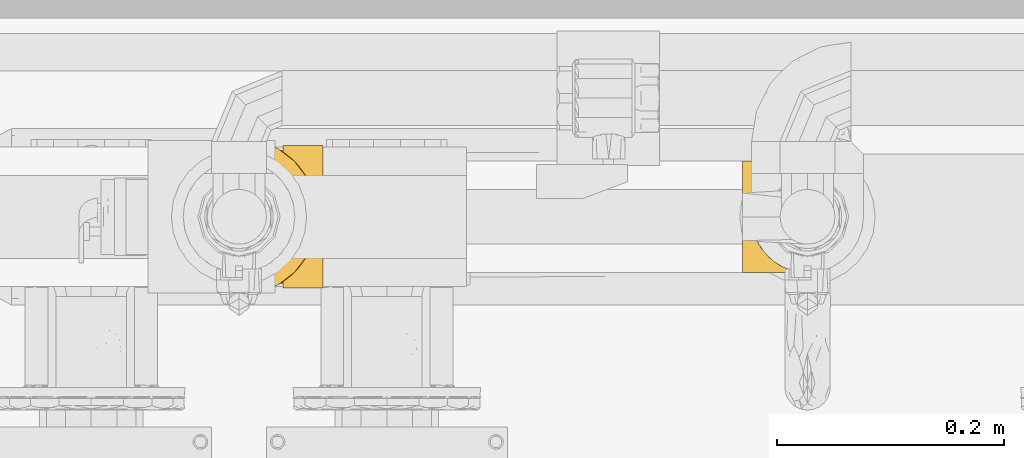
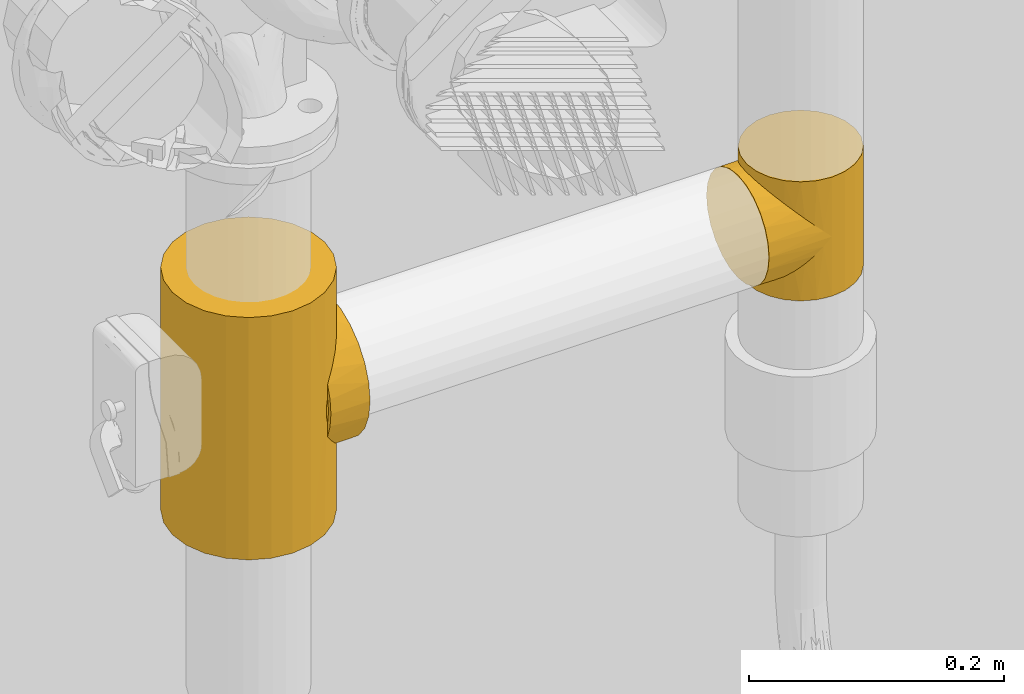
# One storey, part 13 of 94: 2 coverings.
"""IFC2X3 building model written with IfcOpenShell, lengths in millimetres."""

from ifc_helpers import new_model, entity, si_unit, converted_unit, derived_unit, direction, frame, origin, place, context, subcontext, project, spatial, faceted_brep, material, element, save


model = new_model("IFC2X3")

# Units and contexts
model_context = context("Model", 3, precision=0.01, world=origin(), true_north=direction((6.123031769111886e-17, 1.0)))
body_context = subcontext(model_context, "Body", "Model", "MODEL_VIEW")
ifc_project = project(units=[si_unit("LENGTHUNIT", "METRE", prefix="MILLI"), si_unit("AREAUNIT", "SQUARE_METRE"), si_unit("VOLUMEUNIT", "CUBIC_METRE"), converted_unit("PLANEANGLEUNIT", "DEGREE", entity("IfcRatioMeasure", 0.017453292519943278), si_unit("PLANEANGLEUNIT", "RADIAN"), dimensions=[0, 0, 0, 0, 0, 0, 0]), si_unit("MASSUNIT", "GRAM", prefix="KILO"), derived_unit("MASSDENSITYUNIT", [(si_unit("MASSUNIT", "GRAM", prefix="KILO"), 1), (si_unit("LENGTHUNIT", "METRE"), -3)]), derived_unit("IONCONCENTRATIONUNIT", [(si_unit("MASSUNIT", "GRAM", prefix="KILO"), 1), (si_unit("LENGTHUNIT", "METRE"), -3)]), derived_unit("MOMENTOFINERTIAUNIT", [(si_unit("LENGTHUNIT", "METRE"), 4)]), si_unit("TIMEUNIT", "SECOND"), si_unit("FREQUENCYUNIT", "HERTZ"), si_unit("THERMODYNAMICTEMPERATUREUNIT", "DEGREE_CELSIUS"), derived_unit("THERMALTRANSMITTANCEUNIT", [(si_unit("MASSUNIT", "GRAM", prefix="KILO"), 1), (si_unit("THERMODYNAMICTEMPERATUREUNIT", "KELVIN"), -1), (si_unit("TIMEUNIT", "SECOND"), -3)]), derived_unit("THERMALCONDUCTANCEUNIT", [(si_unit("MASSUNIT", "GRAM", prefix="KILO"), 1), (si_unit("THERMODYNAMICTEMPERATUREUNIT", "KELVIN"), -1), (si_unit("TIMEUNIT", "SECOND"), -3), (si_unit("LENGTHUNIT", "METRE"), 1)]), derived_unit("VOLUMETRICFLOWRATEUNIT", [(si_unit("LENGTHUNIT", "METRE"), 3), (si_unit("TIMEUNIT", "SECOND"), -1)]), derived_unit("MASSFLOWRATEUNIT", [(si_unit("MASSUNIT", "GRAM", prefix="KILO"), 1), (si_unit("TIMEUNIT", "SECOND"), -1)]), derived_unit("ROTATIONALFREQUENCYUNIT", [(si_unit("TIMEUNIT", "SECOND"), -1)]), si_unit("ELECTRICCURRENTUNIT", "AMPERE"), si_unit("ELECTRICVOLTAGEUNIT", "VOLT"), si_unit("POWERUNIT", "WATT"), si_unit("FORCEUNIT", "NEWTON", prefix="KILO"), si_unit("ILLUMINANCEUNIT", "LUX"), si_unit("LUMINOUSFLUXUNIT", "LUMEN"), si_unit("LUMINOUSINTENSITYUNIT", "CANDELA"), derived_unit("USERDEFINED", [(si_unit("MASSUNIT", "GRAM", prefix="KILO"), -1), (si_unit("LENGTHUNIT", "METRE"), -2), (si_unit("TIMEUNIT", "SECOND"), 3), (si_unit("LUMINOUSFLUXUNIT", "LUMEN"), 1)]), derived_unit("USERDEFINED", [(si_unit("MASSUNIT", "GRAM", prefix="KILO"), 1), (si_unit("TIMEUNIT", "SECOND"), -3), (si_unit("LENGTHUNIT", "METRE"), 3), (si_unit("ELECTRICCURRENTUNIT", "AMPERE"), -2)]), derived_unit("SOUNDPOWERUNIT", [(si_unit("MASSUNIT", "GRAM", prefix="KILO"), 1), (si_unit("TIMEUNIT", "SECOND"), -3), (si_unit("LENGTHUNIT", "METRE"), 2)]), derived_unit("SOUNDPRESSUREUNIT", [(si_unit("MASSUNIT", "GRAM", prefix="KILO"), 1), (si_unit("LENGTHUNIT", "METRE"), -1), (si_unit("TIMEUNIT", "SECOND"), -2)]), derived_unit("LINEARVELOCITYUNIT", [(si_unit("LENGTHUNIT", "METRE"), 1), (si_unit("TIMEUNIT", "SECOND"), -1)]), si_unit("PRESSUREUNIT", "PASCAL"), derived_unit("USERDEFINED", [(si_unit("MASSUNIT", "GRAM", prefix="KILO"), 1), (si_unit("LENGTHUNIT", "METRE"), -2), (si_unit("TIMEUNIT", "SECOND"), -2)]), derived_unit("LINEARFORCEUNIT", [(si_unit("MASSUNIT", "GRAM", prefix="KILO"), 1), (si_unit("TIMEUNIT", "SECOND"), -2)]), derived_unit("PLANARFORCEUNIT", [(si_unit("MASSUNIT", "GRAM", prefix="KILO"), 1), (si_unit("LENGTHUNIT", "METRE"), -1), (si_unit("TIMEUNIT", "SECOND"), -2)]), derived_unit("SPECIFICHEATCAPACITYUNIT", [(si_unit("THERMODYNAMICTEMPERATUREUNIT", "KELVIN"), -1), (si_unit("LENGTHUNIT", "METRE"), 2), (si_unit("TIMEUNIT", "SECOND"), -2)]), derived_unit("HEATINGVALUEUNIT", [(si_unit("LENGTHUNIT", "METRE"), 2), (si_unit("TIMEUNIT", "SECOND"), -2)]), derived_unit("VAPORPERMEABILITYUNIT", [(si_unit("LENGTHUNIT", "METRE"), -1), (si_unit("TIMEUNIT", "SECOND"), 1)]), derived_unit("DYNAMICVISCOSITYUNIT", [(si_unit("MASSUNIT", "GRAM", prefix="KILO"), 1), (si_unit("TIMEUNIT", "SECOND"), -1), (si_unit("LENGTHUNIT", "METRE"), -1)]), derived_unit("THERMALEXPANSIONCOEFFICIENTUNIT", [(si_unit("THERMODYNAMICTEMPERATUREUNIT", "KELVIN"), -1)]), derived_unit("MODULUSOFELASTICITYUNIT", [(si_unit("MASSUNIT", "GRAM", prefix="KILO"), 1), (si_unit("LENGTHUNIT", "METRE"), -1), (si_unit("TIMEUNIT", "SECOND"), -2)]), derived_unit("ISOTHERMALMOISTURECAPACITYUNIT", [(si_unit("LENGTHUNIT", "METRE"), 3), (si_unit("MASSUNIT", "GRAM", prefix="KILO"), -1)]), derived_unit("MOISTUREDIFFUSIVITYUNIT", [(si_unit("TIMEUNIT", "SECOND"), -1), (si_unit("LENGTHUNIT", "METRE"), 2)])], contexts=[model_context])

# Site, building, storey
site_placement = place(None, origin())
site = spatial("IfcSite", under=ifc_project, at=site_placement, Name="Default", CompositionType="ELEMENT")
building_placement = place(site_placement, origin())
building = spatial("IfcBuilding", under=site, at=building_placement, CompositionType="ELEMENT")
storey_placement = place(building_placement, origin())
storey = spatial("IfcBuildingStorey", under=building, at=storey_placement, Name="Niveau 0", CompositionType="ELEMENT", Elevation=0.0)

# Coverings
ifc_material = material(Name="Isolation - Laine minérale")
covering_1_placement = place(storey_placement, frame((-10442.741137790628, 9851.875273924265, 2126.589965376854)))
element("IfcCovering", 1, at=covering_1_placement, inside=storey, material=ifc_material, Name="Isolation des canalisations:Laine minérale", ObjectType="Isolation des canalisations:Laine minérale", PredefinedType="INSULATION", context=body_context, shape_type="Brep", body=[
    faceted_brep([(109.09527223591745, 127.85564247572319, -141.04995009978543), (109.09527223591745, 127.85564247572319, -127.9791485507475), (109.09527223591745, 128.78453954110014, -122.02155880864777), (109.09527223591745, 129.09527223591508, -116.0), (109.09527223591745, 128.78453954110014, -109.97844119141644), (109.09527223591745, 127.85564247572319, -104.02085144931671), (109.09527223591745, 127.85564247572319, -90.95004990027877), (109.09527223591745, 131.76747600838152, -103.1854970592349), (109.09527223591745, 133.09527223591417, -116.0), (109.09527223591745, 131.76747600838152, -128.81450294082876), (109.09527223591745, 12.406004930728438, -122.0215588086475), (109.09527223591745, 13.334901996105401, -127.97914855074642), (109.09527223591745, 13.334901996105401, -141.0499500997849), (109.09527223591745, 9.42306846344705, -128.8145029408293), (109.09527223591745, 8.095272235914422, -116.0), (109.09527223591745, 9.42306846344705, -103.18549705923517), (109.09527223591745, 13.334901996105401, -90.95004990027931), (109.09527223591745, 13.334901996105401, -104.02085144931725), (109.09527223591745, 12.406004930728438, -109.9784411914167), (109.09527223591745, 12.095272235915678, -116.0), (144.59527223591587, 39.34527223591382, -61.873412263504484), (144.59527223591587, 26.40109841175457, -71.80582617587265), (144.59527223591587, 16.468684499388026, -84.7500000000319), (144.59527223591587, 10.224908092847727, -99.82380968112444), (144.59527223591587, 8.095272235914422, -116.0), (144.59527223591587, 10.224908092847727, -132.17619031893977), (144.59527223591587, 16.468684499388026, -147.25000000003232), (144.59527223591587, 26.40109841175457, -160.19417382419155), (144.59527223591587, 39.34527223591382, -170.1265877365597), (144.59527223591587, 46.88217707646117, -173.2484759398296), (144.59527223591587, 54.41908191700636, -176.37036414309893), (144.59527223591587, 58.46312949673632, -176.90277310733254), (144.59527223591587, 62.50717707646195, -177.43518207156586), (144.59527223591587, 70.59527223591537, -178.50000000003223), (144.59527223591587, 78.68336739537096, -177.43518207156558), (144.59527223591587, 82.7274149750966, -176.90277310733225), (144.59527223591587, 86.77146255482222, -176.37036414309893), (144.59527223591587, 94.30836739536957, -173.24847593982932), (144.59527223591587, 101.84527223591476, -170.12658773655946), (144.59527223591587, 114.78944606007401, -160.19417382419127), (144.59527223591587, 124.72185997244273, -147.25000000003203), (144.59527223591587, 130.96563637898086, -132.1761903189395), (144.59527223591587, 133.09527223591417, -116.0), (144.59527223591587, 130.96563637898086, -99.82380968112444), (144.59527223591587, 124.72185997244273, -84.7500000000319), (144.59527223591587, 114.78944606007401, -71.80582617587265), (144.59527223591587, 101.84527223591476, -61.873412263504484), (144.59527223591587, 94.30836739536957, -58.75152406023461), (144.59527223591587, 86.77146255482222, -55.629635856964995), (144.59527223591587, 82.72741497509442, -55.09722689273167), (144.59527223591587, 78.68336739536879, -54.56481792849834), (144.59527223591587, 70.59527223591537, -53.50000000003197), (144.59527223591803, 62.50717707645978, -54.56481792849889), (144.59527223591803, 58.463129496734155, -55.097226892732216), (144.59527223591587, 54.41908191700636, -55.62963585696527), (144.59527223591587, 46.88217707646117, -58.75152406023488), (123.13073411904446, 25.8624515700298, -72.35111965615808), (116.12735959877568, 18.75099559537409, -81.09411253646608), (129.53562328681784, 34.72000195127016, -64.82173330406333), (138.33883957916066, 57.48767582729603, -54.889927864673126), (136.5705399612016, 51.407539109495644, -56.86269340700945), (139.59527223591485, 70.59527223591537, -53.50000000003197), (138.96705590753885, 64.04147403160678, -54.19496393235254), (134.80224034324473, 45.327402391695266, -58.835458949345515), (138.33883957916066, 83.70286864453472, -54.889927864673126), (134.80224034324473, 95.86314208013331, -58.835458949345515), (129.53562328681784, 106.47054252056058, -64.82173330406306), (138.96705590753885, 77.14907044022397, -54.19496393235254), (136.5705399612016, 89.78300536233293, -56.86269340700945), (123.13073411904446, 115.32809290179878, -72.3511196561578), (116.12735959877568, 122.4395488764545, -81.09411253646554), (123.13073411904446, 115.32809290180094, -159.64888034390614), (116.12735959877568, 122.43954887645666, -150.9058874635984), (138.96705590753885, 77.14907044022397, -177.80503606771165), (138.33883957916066, 83.70286864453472, -177.11007213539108), (129.53562328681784, 106.47054252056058, -167.1782666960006), (136.5705399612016, 89.7830053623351, -175.13730659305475), (139.59527223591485, 70.59527223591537, -178.50000000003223), (134.80224034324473, 95.86314208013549, -173.1645410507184), (138.33883957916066, 57.48767582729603, -177.11007213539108), (134.80224034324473, 45.327402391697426, -173.1645410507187), (129.53562328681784, 34.72000195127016, -167.17826669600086), (138.96705590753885, 64.04147403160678, -177.80503606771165), (136.5705399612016, 51.40753910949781, -175.13730659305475), (123.13073411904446, 25.862451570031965, -159.6488803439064), (116.12735959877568, 18.75099559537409, -150.9058874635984), (105.0952722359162, 130.35102509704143, 0.0), (88.4537863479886, 137.2441542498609, 0.0), (70.59527223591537, 139.59527223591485, 0.0), (52.736758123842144, 137.2441542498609, 0.0), (36.09527223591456, 130.35102509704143, 0.0), (21.804904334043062, 119.38564013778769, 0.0), (10.839519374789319, 105.0952722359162, 0.0), (3.9463902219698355, 88.4537863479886, 0.0), (1.5952722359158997, 70.59527223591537, 0.0), (3.9463902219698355, 52.736758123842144, 0.0), (10.839519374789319, 36.09527223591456, 0.0), (21.804904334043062, 21.804904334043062, 0.0), (36.09527223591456, 10.839519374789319, 0.0), (52.736758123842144, 3.9463902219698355, 0.0), (70.59527223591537, 1.5952722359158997, 0.0), (88.4537863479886, 3.9463902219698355, 0.0), (105.09527223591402, 10.839519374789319, 0.0), (119.38564013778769, 21.804904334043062, 0.0), (124.86833261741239, 28.950088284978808, 0.0), (130.35102509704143, 36.09527223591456, 0.0), (133.797589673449, 44.41601517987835, 0.0), (137.2441542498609, 52.736758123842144, 0.0), (138.4197132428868, 61.66601517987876, 0.0), (139.59527223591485, 70.59527223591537, 0.0), (138.4197132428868, 79.52452929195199, 0.0), (137.2441542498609, 88.4537863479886, 0.0), (133.79758967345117, 96.77452929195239, 0.0), (130.35102509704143, 105.0952722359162, 0.0), (124.86833261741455, 112.24045618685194, 0.0), (119.38564013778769, 119.38564013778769, 0.0), (3.9463902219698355, 52.736758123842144, -232.0), (1.5952722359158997, 70.59527223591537, -232.0), (3.9463902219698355, 88.4537863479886, -232.0), (10.839519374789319, 105.0952722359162, -232.0), (21.804904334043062, 119.38564013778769, -232.0), (36.09527223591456, 130.35102509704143, -232.0), (52.736758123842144, 137.2441542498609, -232.0), (70.59527223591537, 139.59527223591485, -232.0), (88.4537863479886, 137.2441542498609, -232.0), (105.0952722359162, 130.35102509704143, -232.0), (119.38564013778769, 119.38564013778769, -232.0), (124.86833261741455, 112.24045618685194, -232.0), (130.35102509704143, 105.0952722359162, -232.0), (133.79758967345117, 96.77452929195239, -232.0), (137.2441542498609, 88.4537863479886, -232.0), (138.4197132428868, 79.52452929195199, -232.0), (139.59527223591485, 70.59527223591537, -232.0), (138.4197132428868, 61.66601517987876, -232.0), (137.2441542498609, 52.736758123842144, -232.0), (133.79758967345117, 44.41601517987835, -232.0), (130.35102509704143, 36.09527223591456, -232.0), (124.86833261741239, 28.950088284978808, -232.0), (119.38564013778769, 21.804904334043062, -232.0), (105.09527223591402, 10.839519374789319, -232.0), (88.4537863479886, 3.9463902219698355, -232.0), (70.59527223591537, 1.5952722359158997, -232.0), (52.736758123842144, 3.9463902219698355, -232.0), (36.09527223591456, 10.839519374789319, -232.0), (21.804904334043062, 21.804904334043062, -232.0), (10.839519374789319, 36.09527223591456, -232.0), (107.18420498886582, 12.095272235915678, -116.0), (107.69592372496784, 12.418458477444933, -122.14071175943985), (107.69592372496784, 12.418458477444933, -109.85928824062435), (107.69592372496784, 128.772085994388, -122.14071175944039), (107.69592372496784, 128.772085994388, -109.85928824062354), (107.18420498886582, 129.09527223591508, -116.0)], [[[0, 1, 2, 3, 4, 5, 6, 7, 8, 9]], [[10, 11, 12, 13, 14, 15, 16, 17, 18, 19]], [[20, 21, 22, 23, 24, 25, 26, 27, 28, 29, 30, 31, 32, 33, 34, 35, 36, 37, 38, 39, 40, 41, 42, 43, 44, 45, 46, 47, 48, 49, 50, 51, 52, 53, 54, 55]], [[15, 24, 23]], [[23, 22, 16]], [[56, 22, 21]], [[56, 57, 22]], [[14, 24, 15]], [[16, 15, 23]], [[57, 16, 22]], [[21, 20, 58]], [[59, 54, 53, 52]], [[54, 60, 55]], [[51, 61, 62]], [[54, 59, 60]], [[63, 58, 20]], [[63, 20, 55]], [[59, 52, 62]], [[55, 60, 63]], [[51, 62, 52]], [[21, 58, 56]], [[64, 50, 49, 48]], [[47, 46, 65]], [[45, 66, 46]], [[51, 67, 61]], [[51, 50, 67]], [[68, 47, 65]], [[66, 65, 46]], [[64, 48, 68]], [[47, 68, 48]], [[45, 69, 66]], [[70, 69, 44]], [[44, 69, 45]], [[6, 44, 43]], [[7, 43, 42]], [[50, 64, 67]], [[70, 44, 6]], [[6, 43, 7]], [[42, 8, 7]], [[9, 42, 41]], [[41, 40, 0]], [[71, 40, 39]], [[71, 72, 40]], [[8, 42, 9]], [[33, 73, 34]], [[0, 9, 41]], [[72, 0, 40]], [[74, 36, 35, 34]], [[75, 39, 38]], [[36, 76, 37]], [[73, 33, 77]], [[78, 75, 38]], [[78, 38, 37]], [[74, 34, 73]], [[37, 76, 78]], [[36, 74, 76]], [[39, 75, 71]], [[79, 32, 31, 30]], [[29, 28, 80]], [[27, 81, 28]], [[33, 82, 77]], [[33, 32, 82]], [[83, 29, 80]], [[81, 80, 28]], [[79, 30, 83]], [[29, 83, 30]], [[27, 84, 81]], [[85, 84, 26]], [[26, 84, 27]], [[12, 26, 25]], [[13, 25, 24]], [[32, 79, 82]], [[85, 26, 12]], [[12, 25, 13]], [[24, 14, 13]], [[86, 87, 88, 89, 90, 91, 92, 93, 94, 95, 96, 97, 98, 99, 100, 101, 102, 103, 104, 105, 106, 107, 108, 109, 110, 111, 112, 113, 114, 115]], [[116, 117, 118, 119, 120, 121, 122, 123, 124, 125, 126, 127, 128, 129, 130, 131, 132, 133, 134, 135, 136, 137, 138, 139, 140, 141, 142, 143, 144, 145]], [[90, 121, 120, 91]], [[88, 123, 122, 89]], [[89, 122, 121, 90]], [[92, 119, 118, 93]], [[93, 118, 117, 94]], [[91, 120, 119, 92]], [[95, 116, 145, 96]], [[96, 145, 144, 97]], [[117, 116, 95, 94]], [[98, 143, 142, 99]], [[99, 142, 141, 100]], [[97, 144, 143, 98]], [[146, 140, 139]], [[147, 146, 139]], [[140, 101, 100, 141]], [[139, 12, 147]], [[106, 60, 107]], [[85, 12, 139]], [[12, 11, 147]], [[148, 17, 16]], [[58, 104, 56]], [[60, 106, 63]], [[85, 139, 138]], [[80, 136, 135]], [[101, 140, 146]], [[102, 101, 146]], [[146, 148, 102]], [[109, 62, 61]], [[77, 82, 132]], [[16, 57, 102]], [[79, 134, 133]], [[84, 138, 137]], [[148, 16, 102]], [[134, 79, 83]], [[102, 57, 103]], [[85, 138, 84]], [[136, 80, 81]], [[135, 134, 83]], [[132, 82, 133]], [[84, 137, 81]], [[81, 137, 136]], [[79, 133, 82]], [[83, 80, 135]], [[58, 105, 104]], [[104, 103, 56]], [[58, 63, 105]], [[103, 57, 56]], [[60, 59, 107]], [[59, 108, 107]], [[62, 109, 108]], [[63, 106, 105]], [[108, 59, 62]], [[131, 130, 74]], [[132, 131, 73]], [[130, 76, 74]], [[78, 128, 75]], [[128, 78, 129]], [[75, 128, 127]], [[127, 126, 71]], [[64, 110, 67]], [[61, 67, 109]], [[132, 73, 77]], [[65, 112, 68]], [[69, 114, 66]], [[112, 111, 68]], [[113, 65, 66]], [[114, 113, 66]], [[109, 67, 110]], [[131, 74, 73]], [[75, 127, 71]], [[0, 72, 125]], [[1, 0, 149]], [[6, 5, 150]], [[72, 126, 125]], [[76, 129, 78]], [[151, 125, 124]], [[151, 149, 125]], [[125, 149, 0]], [[124, 123, 88, 87]], [[111, 64, 68]], [[64, 111, 110]], [[86, 115, 70]], [[115, 69, 70]], [[70, 6, 86]], [[129, 76, 130]], [[150, 151, 86]], [[65, 113, 112]], [[151, 87, 86]], [[151, 124, 87]], [[150, 86, 6]], [[69, 115, 114]], [[72, 71, 126]], [[146, 19, 148]], [[18, 17, 148]], [[18, 148, 19]], [[150, 5, 4]], [[3, 151, 150]], [[3, 150, 4]], [[151, 3, 149]], [[2, 1, 149]], [[2, 149, 3]], [[147, 11, 10]], [[19, 146, 147]], [[19, 147, 10]]]),
])
covering_2_placement = place(storey_placement, frame((-9929.14586555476, 9871.725273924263, 2067.589965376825)))
element("IfcCovering", 2, at=covering_2_placement, inside=storey, material=ifc_material, Name="Isolation des canalisations:Laine minérale", ObjectType="Isolation des canalisations:Laine minérale", PredefinedType="INSULATION", context=body_context, shape_type="Brep", body=[
    faceted_brep([(8.268686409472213, 47.56503321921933, -114.0), (8.68737281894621, 44.384794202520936, -114.0), (8.395368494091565, 45.59673509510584, -105.60463150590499), (8.940736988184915, 40.44819795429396, -105.05926301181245), (9.106059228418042, 41.20455518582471, -114.0), (9.524745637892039, 38.02431616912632, -114.0), (12.00185349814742, 30.974351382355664, -101.9981465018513), (11.979798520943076, 32.09729420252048, -114.0), (14.434851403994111, 26.17027223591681, -114.0), (10.471295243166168, 35.71127466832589, -103.52870475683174), (16.569044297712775, 22.797815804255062, -97.43095570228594), (18.34027655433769, 21.0806230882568, -114.0), (22.18395859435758, 16.052826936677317, -91.81604140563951), (14.285448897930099, 26.886083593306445, -99.71455110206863), (8.12268424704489, 48.171003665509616, -105.87731575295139), (7.850000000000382, 50.74527223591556, -114.0), (22.245701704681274, 15.990973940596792, -114.0), (28.50347974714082, 10.699413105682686, -85.49652025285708), (32.42499999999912, 8.18012363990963, -114.0), (35.29170179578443, 6.649101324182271, -78.70829820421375), (44.2790439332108, 3.270017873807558, -114.0), (49.64901845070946, 2.1480956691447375, -64.35098154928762), (57.0, 1.5952722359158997, -114.0), (7.850000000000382, 50.74527223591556, -106.14999999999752), (8.122684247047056, 48.171003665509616, -8.122684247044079), (7.850000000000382, 50.74527223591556, 0.0), (7.850000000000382, 50.74527223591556, -7.849999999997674), (42.38096415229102, 3.8197323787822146, -71.61903584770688), (57.0, 1.5952722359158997, -57.0), (49.64901845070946, 2.1480956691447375, -49.64901845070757), (57.0, 1.5952722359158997, 0.0), (50.38291106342, 99.44780434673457, -63.61708893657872), (57.0, 99.89527223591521, -114.0), (44.2790439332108, 98.22052659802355, -114.0), (32.42499999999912, 93.31042083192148, -114.0), (37.39823519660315, 95.81736245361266, -76.60176480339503), (25.280023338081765, 88.28945394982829, -88.7199766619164), (22.245701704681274, 85.49957053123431, -114.0), (31.17991560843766, 92.5668664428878, -82.82008439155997), (57.0, 99.89527223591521, -57.0), (50.38291106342, 99.44780434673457, -50.38291106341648), (57.0, 99.89527223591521, 0.0), (8.293648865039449, 55.39376848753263, -105.70635113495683), (8.68737281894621, 57.10575026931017, -114.0), (8.268686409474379, 53.92551125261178, -114.0), (43.82654170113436, 98.09696171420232, -70.17345829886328), (8.268686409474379, 53.925511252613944, 0.0), (19.842351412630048, 82.91718003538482, -94.15764858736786), (14.434851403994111, 75.32027223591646, -114.0), (11.979798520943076, 69.39325026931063, -114.0), (9.524745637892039, 63.46622830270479, -114.0), (9.995487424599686, 64.37981938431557, -104.0045125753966), (8.737297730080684, 60.042264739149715, -105.26270226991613), (15.069182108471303, 76.38760073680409, -98.93081789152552), (11.253677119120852, 68.7173740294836, -102.74632288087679), (9.106059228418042, 60.285989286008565, -114.0), (99.5651485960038, 26.170272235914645, 0.0), (104.47525436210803, 38.02431616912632, 0.0), (106.1499999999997, 50.74527223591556, 0.0), (104.47525436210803, 63.46622830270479, 0.0), (99.5651485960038, 75.32027223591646, 0.0), (91.7542982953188, 85.49957053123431, 0.0), (81.57499999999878, 93.31042083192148, 0.0), (69.72095606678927, 98.22052659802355, 0.0), (44.2790439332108, 98.22052659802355, 0.0), (32.42499999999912, 93.31042083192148, 0.0), (22.245701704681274, 85.49957053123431, 0.0), (14.434851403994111, 75.32027223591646, 0.0), (11.979798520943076, 69.39325026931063, 0.0), (9.524745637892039, 63.46622830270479, 0.0), (9.106059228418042, 60.285989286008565, 0.0), (8.68737281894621, 57.10575026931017, 0.0), (8.268686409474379, 47.56503321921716, 0.0), (8.68737281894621, 44.384794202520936, 0.0), (9.106059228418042, 41.20455518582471, 0.0), (9.524745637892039, 38.02431616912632, 0.0), (11.979798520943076, 32.09729420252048, 0.0), (14.434851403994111, 26.170272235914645, 0.0), (18.34027655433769, 21.0806230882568, 0.0), (22.245701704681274, 15.990973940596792, 0.0), (32.42499999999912, 8.18012363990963, 0.0), (44.2790439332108, 3.270017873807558, 0.0), (69.72095606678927, 3.270017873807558, 0.0), (81.57499999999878, 8.18012363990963, 0.0), (91.7542982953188, 15.990973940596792, 0.0), (69.72095606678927, 98.22052659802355, -114.0), (81.57499999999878, 93.31042083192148, -114.0), (91.7542982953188, 85.49957053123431, -114.0), (99.5651485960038, 75.32027223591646, -114.0), (104.47525436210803, 63.46622830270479, -114.0), (106.1499999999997, 50.74527223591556, -114.0), (104.47525436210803, 38.02431616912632, -114.0), (99.5651485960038, 26.170272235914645, -114.0), (91.7542982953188, 15.990973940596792, -114.0), (81.57499999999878, 8.18012363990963, -114.0), (69.72095606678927, 3.270017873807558, -114.0), (43.82654170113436, 98.09696171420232, -43.82654170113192), (37.39823519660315, 95.81736245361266, -37.398235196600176), (8.293648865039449, 55.39376848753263, -8.293648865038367), (31.17991560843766, 92.5668664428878, -31.179915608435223), (25.280023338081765, 88.28945394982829, -25.280023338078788), (8.737297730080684, 60.042264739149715, -8.73729773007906), (19.842351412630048, 82.91718003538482, -19.84235141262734), (15.069182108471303, 76.38760073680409, -15.069182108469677), (9.995487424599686, 64.37981938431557, -9.995487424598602), (11.253677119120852, 68.7173740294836, -11.253677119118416), (12.00185349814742, 30.974351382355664, -12.001853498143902), (10.471295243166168, 35.71127466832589, -10.47129524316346), (16.569044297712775, 22.797815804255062, -16.569044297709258), (8.940736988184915, 40.44819795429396, -8.94073698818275), (22.18395859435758, 16.052826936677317, -22.183958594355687), (14.285448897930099, 26.886083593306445, -14.28544889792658), (8.395368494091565, 45.59673509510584, -8.395368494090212), (35.29170179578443, 6.649101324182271, -35.29170179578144), (42.38096415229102, 3.8197323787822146, -42.380964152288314), (28.50347974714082, 10.699413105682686, -28.503479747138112), (0.0, 98.22052659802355, -69.72095606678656), (0.0, 93.31042083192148, -81.5749999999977), (0.0, 85.49957053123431, -91.75429829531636), (0.0, 75.32027223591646, -99.56514859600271), (0.0, 69.39325026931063, -102.02020147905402), (0.0, 63.46622830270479, -104.47525436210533), (0.0, 60.285989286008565, -104.89394077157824), (0.0, 57.10575026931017, -105.3126271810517), (0.0, 53.92551125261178, -105.73131359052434), (0.0, 50.74527223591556, -106.14999999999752), (0.0, 47.56503321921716, -105.73131359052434), (0.0, 44.384794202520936, -105.31262718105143), (0.0, 41.20455518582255, -104.89394077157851), (0.0, 38.02431616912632, -104.47525436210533), (0.0, 32.09729420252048, -102.02020147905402), (0.0, 26.170272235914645, -99.56514859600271), (0.0, 21.0806230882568, -95.65972344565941), (0.0, 15.990973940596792, -91.75429829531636), (0.0, 8.18012363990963, -81.5749999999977), (0.0, 3.270017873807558, -69.72095606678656), (0.0, 1.5952722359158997, -57.0), (0.0, 3.270017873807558, -44.279043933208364), (0.0, 8.18012363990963, -32.42499999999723), (0.0, 15.990973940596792, -22.245701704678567), (0.0, 21.0806230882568, -18.340276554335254), (0.0, 26.170272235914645, -14.434851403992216), (0.0, 32.09729420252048, -11.979798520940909), (0.0, 38.02431616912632, -9.524745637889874), (0.0, 41.20455518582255, -9.106059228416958), (0.0, 44.384794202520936, -8.687372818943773), (0.0, 47.56503321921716, -8.26868640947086), (0.0, 50.74527223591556, -7.8499999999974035), (0.0, 53.92551125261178, -8.268686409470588), (0.0, 57.10575026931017, -8.687372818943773), (0.0, 60.2859892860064, -9.106059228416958), (0.0, 63.46622830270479, -9.524745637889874), (0.0, 69.39325026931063, -11.97979852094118), (0.0, 75.32027223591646, -14.434851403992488), (0.0, 85.49957053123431, -22.245701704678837), (0.0, 93.31042083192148, -32.4249999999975), (0.0, 98.22052659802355, -44.279043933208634), (0.0, 99.89527223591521, -57.0)], [[[0, 1, 2]], [[3, 1, 4, 5]], [[6, 7, 8]], [[9, 7, 6]], [[9, 3, 5]], [[10, 8, 11]], [[12, 10, 11]], [[6, 8, 10, 13]], [[14, 15, 0]], [[11, 16, 12]], [[17, 16, 18]], [[19, 18, 20]], [[21, 20, 22]], [[19, 17, 18]], [[15, 14, 23]], [[24, 25, 26]], [[21, 27, 20]], [[28, 21, 22]], [[29, 28, 30]], [[1, 3, 2]], [[19, 20, 27]], [[7, 9, 5]], [[16, 17, 12]], [[0, 2, 14]], [[31, 32, 33]], [[33, 34, 35]], [[36, 34, 37]], [[36, 38, 34]], [[31, 39, 32]], [[39, 40, 41]], [[42, 43, 44]], [[35, 45, 33]], [[38, 35, 34]], [[31, 33, 45]], [[23, 44, 15]], [[46, 26, 25]], [[47, 37, 48]], [[49, 50, 51]], [[23, 42, 44]], [[50, 52, 51]], [[53, 47, 48]], [[54, 48, 49]], [[54, 49, 51]], [[52, 43, 42]], [[52, 50, 55, 43]], [[53, 48, 54]], [[37, 47, 36]], [[56, 57, 58, 59, 60, 61, 62, 63, 41, 64, 65, 66, 67, 68, 69, 70, 71, 46, 25, 72, 73, 74, 75, 76, 77, 78, 79, 80, 81, 30, 82, 83, 84]], [[85, 86, 87, 88, 89, 90, 91, 92, 93, 94, 95, 22, 20, 18, 16, 11, 8, 7, 5, 4, 1, 0, 15, 44, 43, 55, 50, 49, 48, 37, 34, 33, 32]], [[88, 87, 61, 60]], [[58, 90, 89, 59]], [[89, 88, 60, 59]], [[62, 86, 85, 63]], [[32, 39, 41, 63, 85]], [[61, 87, 86, 62]], [[96, 97, 64]], [[26, 46, 98]], [[40, 96, 64]], [[41, 40, 64]], [[65, 99, 100]], [[65, 64, 97]], [[71, 101, 98]], [[65, 100, 66]], [[99, 65, 97]], [[102, 103, 67]], [[104, 68, 105]], [[104, 101, 69]], [[68, 104, 69]], [[103, 105, 67]], [[66, 102, 67]], [[101, 71, 70, 69]], [[68, 67, 105]], [[98, 46, 71]], [[102, 66, 100]], [[106, 76, 107]], [[106, 77, 76]], [[77, 108, 78]], [[109, 75, 74, 73]], [[110, 78, 108]], [[111, 108, 77, 106]], [[25, 24, 72]], [[109, 73, 112]], [[72, 24, 112]], [[76, 75, 107]], [[110, 79, 78]], [[75, 109, 107]], [[113, 114, 81]], [[114, 29, 81]], [[79, 115, 80]], [[115, 79, 110]], [[113, 80, 115]], [[113, 81, 80]], [[29, 30, 81]], [[112, 73, 72]], [[28, 22, 95, 82, 30]], [[82, 95, 94, 83]], [[94, 93, 84, 83]], [[84, 93, 92, 56]], [[56, 92, 91, 57]], [[57, 91, 90, 58]], [[116, 117, 118, 119, 120, 121, 122, 123, 124, 125, 126, 127, 128, 129, 130, 131, 132, 133, 134, 135, 136, 137, 138, 139, 140, 141, 142, 143, 144, 145, 146, 147, 148, 149, 150, 151, 152, 153, 154, 155, 156, 157]], [[52, 123, 122, 121]], [[119, 118, 47]], [[23, 124, 42]], [[54, 120, 119]], [[124, 23, 125]], [[124, 123, 42]], [[120, 51, 121]], [[53, 54, 119]], [[47, 53, 119]], [[51, 120, 54]], [[52, 121, 51]], [[118, 36, 47]], [[38, 36, 117]], [[117, 36, 118]], [[35, 117, 116]], [[31, 116, 157]], [[35, 38, 117]], [[31, 45, 116]], [[39, 31, 157]], [[35, 116, 45]], [[123, 52, 42]], [[40, 157, 156]], [[156, 155, 97]], [[100, 155, 154]], [[100, 99, 155]], [[40, 39, 157]], [[98, 149, 148]], [[97, 96, 156]], [[99, 97, 155]], [[40, 156, 96]], [[26, 148, 147]], [[102, 154, 153]], [[152, 151, 104]], [[26, 98, 148]], [[151, 101, 104]], [[103, 102, 153]], [[105, 153, 152]], [[105, 152, 104]], [[101, 149, 98]], [[101, 151, 150, 149]], [[103, 153, 105]], [[154, 102, 100]], [[146, 145, 112]], [[109, 145, 144, 143]], [[106, 142, 141]], [[107, 142, 106]], [[107, 109, 143]], [[108, 141, 140]], [[110, 108, 140]], [[106, 141, 108, 111]], [[24, 147, 146]], [[140, 139, 110]], [[115, 139, 138]], [[113, 138, 137]], [[29, 137, 136]], [[113, 115, 138]], [[147, 24, 26]], [[29, 114, 137]], [[28, 29, 136]], [[145, 109, 112]], [[113, 137, 114]], [[142, 107, 143]], [[139, 115, 110]], [[146, 112, 24]], [[21, 136, 135]], [[135, 134, 19]], [[17, 134, 133]], [[17, 19, 134]], [[14, 125, 23]], [[21, 28, 136]], [[3, 129, 128, 127]], [[19, 27, 135]], [[21, 135, 27]], [[2, 127, 126]], [[131, 6, 13, 10]], [[125, 14, 126]], [[10, 132, 131]], [[130, 129, 9]], [[14, 2, 126]], [[12, 133, 132]], [[12, 132, 10]], [[6, 130, 9]], [[3, 127, 2]], [[6, 131, 130]], [[129, 3, 9]], [[133, 12, 17]]]),
])

save(model, "model.ifc")
